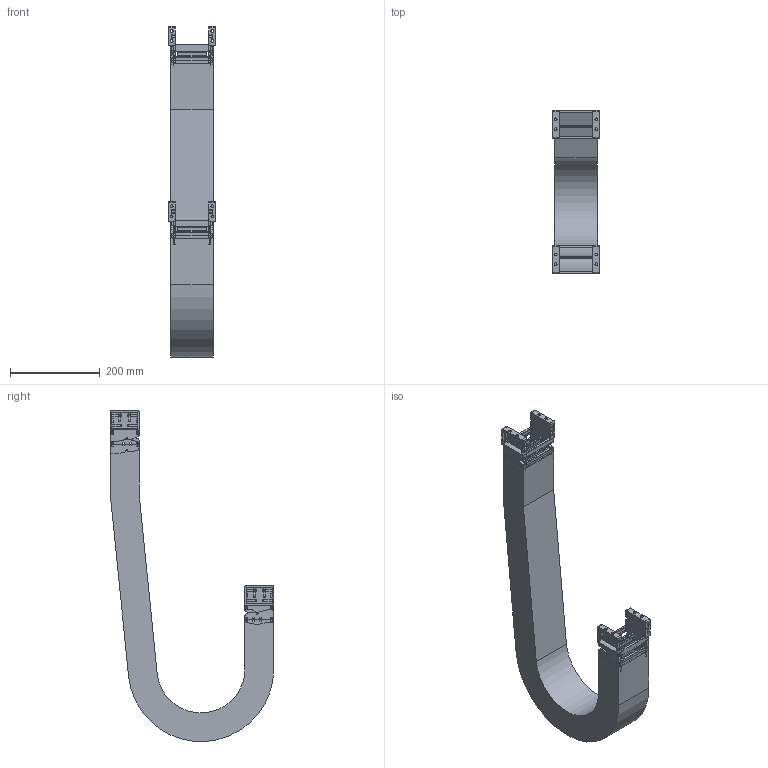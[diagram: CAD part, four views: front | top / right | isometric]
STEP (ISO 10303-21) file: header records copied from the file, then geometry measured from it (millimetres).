
FILE_DESCRIPTION((''),'2;1');
FILE_NAME('KST-50075-125_ASM','2017-12-08T',('KUNI004K'),(''),'PRO/ENGINEER BY PARAMETRIC TECHNOLOGY CORPORATION, 2015200','PRO/ENGINEER BY PARAMETRIC TECHNOLOGY CORPORATION, 2015200','');
FILE_SCHEMA(('AUTOMOTIVE_DESIGN { 1 0 10303 214 1 1 1 1 }'));
Length unit declared in the file: millimetre
Products named in the file (13): 50FBR; 50FBL; 40075C; KST50FB_W075_ASM; KST50125R; KST50125L; 40075H; KST50075-125_1_ASM; KST50075_R125_BODY; 50MBR; 50MBL; KST50MB_W075_ASM; KST-50075-125_ASM
Assembly tree (19 placements, depth 3):
  KST-50075-125_ASM
    KST50FB_W075_ASM
      50FBR
      50FBL
      40075C  x2
    KST50075-125_1_ASM  x2
      KST50125R
      KST50125L
      40075C
      40075H
    KST50075_R125_BODY
    KST50MB_W075_ASM
      50MBR
      50MBL
      40075C  x2
Bounding box: 103 x 364 x 737.35 mm (x, y, z)
Volume: 2559306.3 mm3; surface area: 874561.5 mm2
Topology: 21 solids, 21 shells, 2744 faces, 7470 edges, 4796 vertices
Faces by surface type: plane 1414, cylinder 954, bspline 308, torus 68
Entity records: 68234 total; most frequent: CARTESIAN_POINT 14177, ORIENTED_EDGE 7256, DIRECTION 6570, PRESENTATION_STYLE_ASSIGNMENT 4952, STYLED_ITEM 4952, CURVE_STYLE 3628, EDGE_CURVE 3628, VERTEX_POINT 2344
